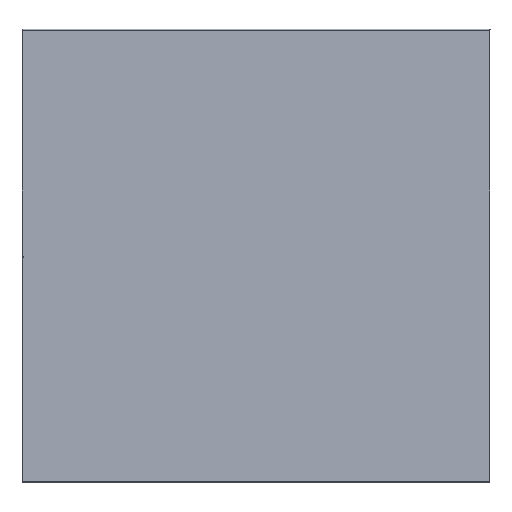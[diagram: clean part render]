
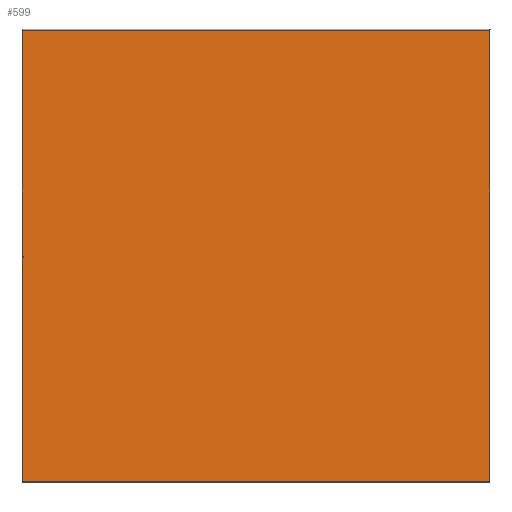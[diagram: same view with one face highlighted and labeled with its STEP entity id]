
A CAD part, front view. The second image highlights one B-rep face of the part: STEP entity #599.
In plain terms, the highlighted planar face has unit normal (0.087, -0.996, 0).
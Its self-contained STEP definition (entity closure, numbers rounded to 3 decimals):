
#61=FACE_OUTER_BOUND('',#95,.T.);
#95=EDGE_LOOP('',(#439,#440,#441,#442,#443,#444,#445,#446,#447,#448,#449,
#450));
#129=LINE('',#835,#197);
#133=LINE('',#842,#201);
#136=LINE('',#848,#204);
#139=LINE('',#856,#207);
#143=LINE('',#863,#211);
#146=LINE('',#869,#214);
#149=LINE('',#875,#217);
#150=LINE('',#878,#218);
#155=LINE('',#887,#223);
#156=LINE('',#890,#224);
#159=LINE('',#895,#227);
#160=LINE('',#896,#228);
#197=VECTOR('',#687,10.);
#201=VECTOR('',#693,10.);
#204=VECTOR('',#698,10.);
#207=VECTOR('',#703,10.);
#211=VECTOR('',#709,10.);
#214=VECTOR('',#714,10.);
#217=VECTOR('',#719,10.);
#218=VECTOR('',#722,10.);
#223=VECTOR('',#729,10.);
#224=VECTOR('',#732,10.);
#227=VECTOR('',#737,10.);
#228=VECTOR('',#738,10.);
#265=VERTEX_POINT('',#832);
#266=VERTEX_POINT('',#834);
#268=VERTEX_POINT('',#840);
#270=VERTEX_POINT('',#846);
#273=VERTEX_POINT('',#853);
#274=VERTEX_POINT('',#855);
#276=VERTEX_POINT('',#861);
#278=VERTEX_POINT('',#867);
#280=VERTEX_POINT('',#873);
#281=VERTEX_POINT('',#877);
#284=VERTEX_POINT('',#885);
#285=VERTEX_POINT('',#889);
#317=EDGE_CURVE('',#266,#265,#129,.T.);
#321=EDGE_CURVE('',#265,#268,#133,.T.);
#324=EDGE_CURVE('',#268,#270,#136,.T.);
#327=EDGE_CURVE('',#274,#273,#139,.T.);
#331=EDGE_CURVE('',#273,#276,#143,.T.);
#334=EDGE_CURVE('',#276,#278,#146,.T.);
#337=EDGE_CURVE('',#280,#270,#149,.T.);
#338=EDGE_CURVE('',#266,#281,#150,.T.);
#343=EDGE_CURVE('',#284,#278,#155,.T.);
#344=EDGE_CURVE('',#274,#285,#156,.T.);
#347=EDGE_CURVE('',#285,#280,#159,.T.);
#348=EDGE_CURVE('',#284,#281,#160,.T.);
#439=ORIENTED_EDGE('',*,*,#317,.T.);
#440=ORIENTED_EDGE('',*,*,#321,.T.);
#441=ORIENTED_EDGE('',*,*,#324,.T.);
#442=ORIENTED_EDGE('',*,*,#337,.F.);
#443=ORIENTED_EDGE('',*,*,#347,.F.);
#444=ORIENTED_EDGE('',*,*,#344,.F.);
#445=ORIENTED_EDGE('',*,*,#327,.T.);
#446=ORIENTED_EDGE('',*,*,#331,.T.);
#447=ORIENTED_EDGE('',*,*,#334,.T.);
#448=ORIENTED_EDGE('',*,*,#343,.F.);
#449=ORIENTED_EDGE('',*,*,#348,.T.);
#450=ORIENTED_EDGE('',*,*,#338,.F.);
#577=PLANE('',#653);
#599=ADVANCED_FACE('',(#61),#577,.T.);
#653=AXIS2_PLACEMENT_3D('',#894,#735,#736);
#687=DIRECTION('',(0.996,0.087,0.));
#693=DIRECTION('',(0.,0.,-1.));
#698=DIRECTION('',(-0.996,-0.087,0.));
#703=DIRECTION('',(-0.996,-0.087,0.));
#709=DIRECTION('',(0.,0.,1.));
#714=DIRECTION('',(0.996,0.087,0.));
#719=DIRECTION('',(0.,0.,1.));
#722=DIRECTION('',(0.,0.,1.));
#729=DIRECTION('',(0.,0.,-1.));
#732=DIRECTION('',(0.,0.,-1.));
#735=DIRECTION('center_axis',(0.087,-0.996,0.));
#736=DIRECTION('ref_axis',(0.992,0.087,-0.087));
#737=DIRECTION('',(-0.996,-0.087,0.));
#738=DIRECTION('',(-0.996,-0.087,0.));
#832=CARTESIAN_POINT('',(1.992,-150.826,-459.5));
#834=CARTESIAN_POINT('',(0.,-151.,-459.5));
#835=CARTESIAN_POINT('',(238.518,-130.132,-459.5));
#840=CARTESIAN_POINT('',(1.992,-150.826,-461.5));
#842=CARTESIAN_POINT('',(1.992,-150.826,-459.684));
#846=CARTESIAN_POINT('',(0.,-151.,-461.5));
#848=CARTESIAN_POINT('',(237.522,-130.219,-461.5));
#853=CARTESIAN_POINT('',(948.008,-68.06,-461.5));
#855=CARTESIAN_POINT('',(950.,-67.886,-461.5));
#856=CARTESIAN_POINT('',(711.526,-88.75,-461.5));
#861=CARTESIAN_POINT('',(948.008,-68.06,-459.5));
#863=CARTESIAN_POINT('',(948.008,-68.06,-458.684));
#867=CARTESIAN_POINT('',(950.,-67.886,-459.5));
#869=CARTESIAN_POINT('',(712.522,-88.662,-459.5));
#873=CARTESIAN_POINT('',(0.,-151.,-917.));
#875=CARTESIAN_POINT('',(0.,-151.,-1.));
#877=CARTESIAN_POINT('',(0.,-151.,-1.));
#878=CARTESIAN_POINT('',(0.,-151.,-1.));
#885=CARTESIAN_POINT('',(950.,-67.886,-1.));
#887=CARTESIAN_POINT('',(950.,-67.886,-1.));
#889=CARTESIAN_POINT('',(950.,-67.886,-917.));
#890=CARTESIAN_POINT('',(950.,-67.886,-1.));
#894=CARTESIAN_POINT('Origin',(475.045,-109.439,-457.867));
#895=CARTESIAN_POINT('',(950.,-67.886,-917.));
#896=CARTESIAN_POINT('',(475.109,-109.433,-1.));
